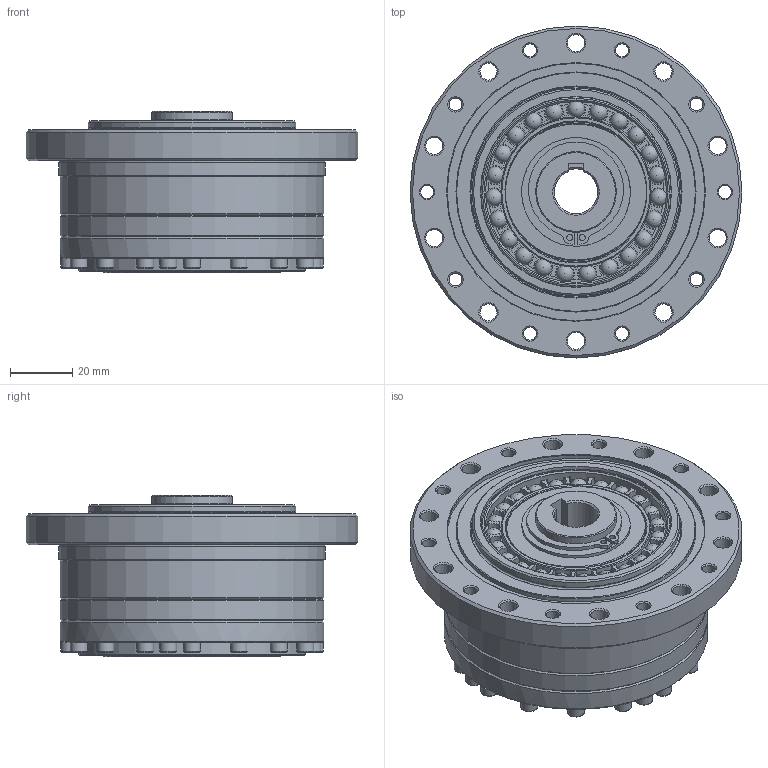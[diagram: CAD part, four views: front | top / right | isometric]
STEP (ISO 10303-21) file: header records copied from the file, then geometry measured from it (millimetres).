
FILE_DESCRIPTION(/* description */ (''),/* implementation_level */ '2;1');
FILE_NAME(/* name */ 'S:\TB00F\研發課二組\機密級\97.\X2\540C4EC151714EAB5340\X0\ (機密級)\H11\欣怡\2023專案追蹤\2.型錄\模型\\X2\5B987DB2\X0\3D檔(NEW)\DGC-PO\DGC-25-XX-PO.stp',/* time_stamp */ '2024-09-13T16:31:26+08:00',/* author */ ('bb1128.zheng'),/* organization */ (''),/* preprocessor_version */ 'ST-DEVELOPER v15.2',/* originating_system */ 'Autodesk Inventor 2014',/* authorisation */ '');
FILE_SCHEMA (('AUTOMOTIVE_DESIGN { 1 0 10303 214 3 1 1 }'));
Length unit declared in the file: centimetre
Products named in the file (1): DGC-25-XX-PO
Bounding box: 107 x 107 x 52 mm (x, y, z)
Volume: 241334.2 mm3; surface area: 59263.6 mm2
Topology: 1 solids, 19 shells, 891 faces, 2146 edges, 1332 vertices
Faces by surface type: plane 373, cylinder 236, cone 162, torus 94, sphere 23, bspline 3
Full cylindrical faces by diameter (mm): 2 x2, 2.5 x4, 3 x8, 4.134 x10, 4.917 x8, 5.5 x30, 6 x8, 6.6 x8, 6.647 x8, 10 x8, 15 x1, 20 x3, 24.9 x1, 26 x2, 26.1 x1, 26.5 x1, 35 x1, 41 x1, 48.385 x1, 52.6 x1, 55.2 x1, 58.32 x1, 61.304 x1, 61.34 x1, 67 x1, 73 x1, 77.4 x1, 83 x1, 85 x3, 86 x1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
Entity records: 22749 total; most frequent: CARTESIAN_POINT 4233, DIRECTION 4125, ORIENTED_EDGE 3332, AXIS2_PLACEMENT_3D 1808, EDGE_CURVE 1620, EDGE_LOOP 1341, VERTEX_POINT 1145, CIRCLE 907
